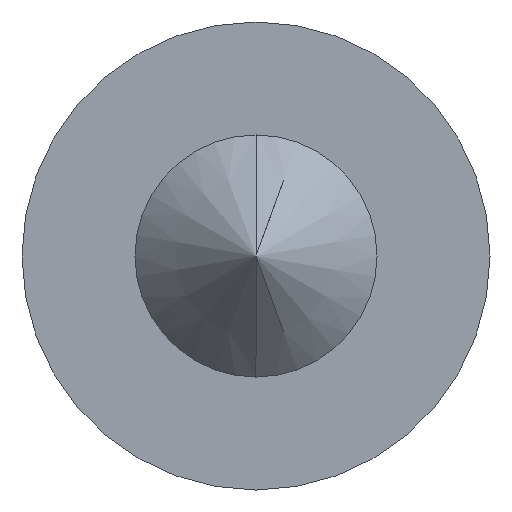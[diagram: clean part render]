
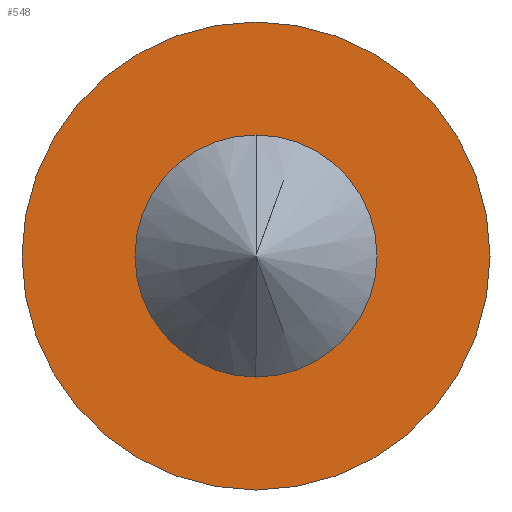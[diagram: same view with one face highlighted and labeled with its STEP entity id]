
A CAD part, left-side view. The second image highlights one B-rep face of the part: STEP entity #548.
In plain terms, the highlighted planar face has unit normal (-1, 0, 0).
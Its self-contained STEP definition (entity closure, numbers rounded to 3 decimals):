
#160 = EDGE_CURVE ( 'NONE', #788, #254, #290, .T. ) ;
#161 = ORIENTED_EDGE ( 'NONE', *, *, #302, .T. ) ;
#221 = DIRECTION ( 'NONE',  ( -1., 0., 0. ) ) ;
#237 = CARTESIAN_POINT ( 'NONE',  ( -8.345, 0., 0. ) ) ;
#254 = VERTEX_POINT ( 'NONE', #1634 ) ;
#258 = CIRCLE ( 'NONE', #513, 1.202 ) ;
#270 = ORIENTED_EDGE ( 'NONE', *, *, #646, .T. ) ;
#285 = CARTESIAN_POINT ( 'NONE',  ( -8.345, 0., -2.9 ) ) ;
#290 = CIRCLE ( 'NONE', #838, 1.202 ) ;
#302 = EDGE_CURVE ( 'NONE', #413, #1530, #1144, .T. ) ;
#303 = ORIENTED_EDGE ( 'NONE', *, *, #160, .F. ) ;
#309 = AXIS2_PLACEMENT_3D ( 'NONE', #1126, #1161, #1175 ) ;
#364 = DIRECTION ( 'NONE',  ( -1., 0., 0. ) ) ;
#374 = EDGE_LOOP ( 'NONE', ( #161, #270 ) ) ;
#413 = VERTEX_POINT ( 'NONE', #912 ) ;
#456 = FACE_BOUND ( 'NONE', #1575, .T. ) ;
#489 = CARTESIAN_POINT ( 'NONE',  ( -8.345, 0., 0. ) ) ;
#513 = AXIS2_PLACEMENT_3D ( 'NONE', #1086, #221, #948 ) ;
#548 = ADVANCED_FACE ( 'NONE', ( #456, #1313 ), #1146, .F. ) ;
#604 = AXIS2_PLACEMENT_3D ( 'NONE', #489, #364, #1308 ) ;
#646 = EDGE_CURVE ( 'NONE', #1530, #413, #753, .T. ) ;
#688 = AXIS2_PLACEMENT_3D ( 'NONE', #1604, #1323, #1229 ) ;
#753 = CIRCLE ( 'NONE', #604, 2.9 ) ;
#788 = VERTEX_POINT ( 'NONE', #1478 ) ;
#834 = DIRECTION ( 'NONE',  ( -1., 0., 0. ) ) ;
#838 = AXIS2_PLACEMENT_3D ( 'NONE', #237, #834, #1213 ) ;
#912 = CARTESIAN_POINT ( 'NONE',  ( -8.345, 0., 2.9 ) ) ;
#948 = DIRECTION ( 'NONE',  ( 0., 0., 1. ) ) ;
#1086 = CARTESIAN_POINT ( 'NONE',  ( -8.345, 0., 0. ) ) ;
#1126 = CARTESIAN_POINT ( 'NONE',  ( -8.345, 2.9, 0. ) ) ;
#1144 = CIRCLE ( 'NONE', #688, 2.9 ) ;
#1146 = PLANE ( 'NONE',  #309 ) ;
#1161 = DIRECTION ( 'NONE',  ( 1., 0., 0. ) ) ;
#1175 = DIRECTION ( 'NONE',  ( 0., 0., -1. ) ) ;
#1213 = DIRECTION ( 'NONE',  ( 0., 0., 1. ) ) ;
#1229 = DIRECTION ( 'NONE',  ( 0., 0., 1. ) ) ;
#1281 = EDGE_CURVE ( 'NONE', #254, #788, #258, .T. ) ;
#1308 = DIRECTION ( 'NONE',  ( 0., 0., 1. ) ) ;
#1313 = FACE_OUTER_BOUND ( 'NONE', #374, .T. ) ;
#1323 = DIRECTION ( 'NONE',  ( -1., 0., 0. ) ) ;
#1454 = ORIENTED_EDGE ( 'NONE', *, *, #1281, .F. ) ;
#1478 = CARTESIAN_POINT ( 'NONE',  ( -8.345, 0., -1.202 ) ) ;
#1530 = VERTEX_POINT ( 'NONE', #285 ) ;
#1575 = EDGE_LOOP ( 'NONE', ( #303, #1454 ) ) ;
#1604 = CARTESIAN_POINT ( 'NONE',  ( -8.345, 0., 0. ) ) ;
#1634 = CARTESIAN_POINT ( 'NONE',  ( -8.345, 0., 1.202 ) ) ;
